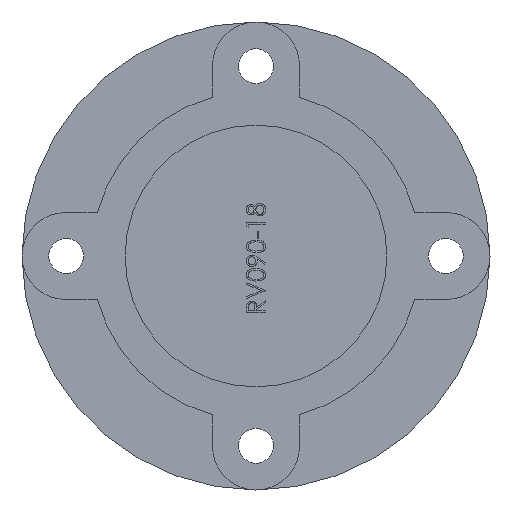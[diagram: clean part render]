
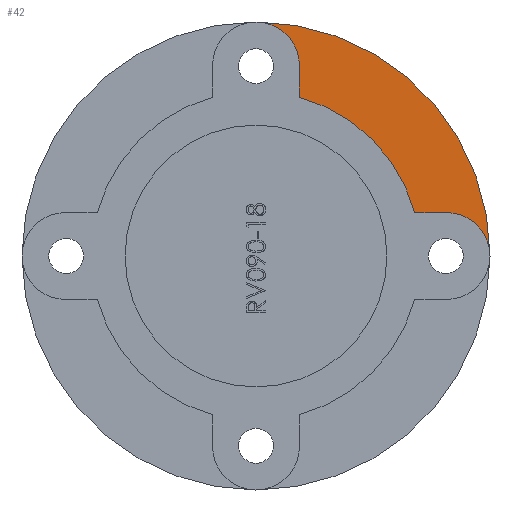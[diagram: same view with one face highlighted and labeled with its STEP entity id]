
A CAD part, left-side view. The second image highlights one B-rep face of the part: STEP entity #42.
In plain terms, the highlighted planar face has unit normal (-1, 0, 0).
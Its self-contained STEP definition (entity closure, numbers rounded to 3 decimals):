
#42 = ADVANCED_FACE ( 'NONE', ( #4893 ), #462, .F. ) ;
#459 = DIRECTION ( 'NONE',  ( 0., 0., -1. ) ) ;
#460 = DIRECTION ( 'NONE',  ( 1., 0., 0. ) ) ;
#461 = CARTESIAN_POINT ( 'NONE',  ( 18., 56.8, 0. ) ) ;
#462 = PLANE ( 'NONE',  #4895 ) ;
#811 = DIRECTION ( 'NONE',  ( 0., -1., 0. ) ) ;
#812 = DIRECTION ( 'NONE',  ( -1., 0., 0. ) ) ;
#813 = CARTESIAN_POINT ( 'NONE',  ( 18., 0., 65.75 ) ) ;
#814 = DIRECTION ( 'NONE',  ( 0., 0., 1. ) ) ;
#815 = DIRECTION ( 'NONE',  ( -1., 0., 0. ) ) ;
#816 = CARTESIAN_POINT ( 'NONE',  ( 18., 0., 0. ) ) ;
#817 = DIRECTION ( 'NONE',  ( 0., 0., -1. ) ) ;
#818 = DIRECTION ( 'NONE',  ( -1., 0., 0. ) ) ;
#819 = DIRECTION ( 'NONE',  ( 0., 1., 0. ) ) ;
#820 = CARTESIAN_POINT ( 'NONE',  ( 18., -65.75, 15. ) ) ;
#821 = LINE ( 'NONE', #820, #1320 ) ;
#822 = DIRECTION ( 'NONE',  ( 0., 0., 1. ) ) ;
#823 = CARTESIAN_POINT ( 'NONE',  ( 18., -15., 65.75 ) ) ;
#824 = LINE ( 'NONE', #823, #1318 ) ;
#825 = CARTESIAN_POINT ( 'NONE',  ( 18., -65.75, 0. ) ) ;
#838 = DIRECTION ( 'NONE',  ( 0., 0., 1. ) ) ;
#839 = DIRECTION ( 'NONE',  ( -1., 0., 0. ) ) ;
#846 = CARTESIAN_POINT ( 'NONE',  ( 18., 0., 0. ) ) ;
#1306 = AXIS2_PLACEMENT_3D ( 'NONE', #816, #815, #814 ) ;
#1311 = AXIS2_PLACEMENT_3D ( 'NONE', #846, #839, #838 ) ;
#1313 = AXIS2_PLACEMENT_3D ( 'NONE', #825, #818, #817 ) ;
#1318 = VECTOR ( 'NONE', #822, 1000. ) ;
#1320 = VECTOR ( 'NONE', #819, 1000. ) ;
#1322 = AXIS2_PLACEMENT_3D ( 'NONE', #813, #812, #811 ) ;
#1696 = VERTEX_POINT ( 'NONE', #4665 ) ;
#1768 = VERTEX_POINT ( 'NONE', #4592 ) ;
#1770 = VERTEX_POINT ( 'NONE', #4590 ) ;
#1775 = VERTEX_POINT ( 'NONE', #4585 ) ;
#1776 = VERTEX_POINT ( 'NONE', #4584 ) ;
#1777 = VERTEX_POINT ( 'NONE', #4583 ) ;
#2117 = EDGE_LOOP ( 'NONE', ( #2192, #2194, #2193, #2196, #2195, #2197 ) ) ;
#2192 = ORIENTED_EDGE ( 'NONE', *, *, #6564, .F. ) ;
#2193 = ORIENTED_EDGE ( 'NONE', *, *, #6565, .F. ) ;
#2194 = ORIENTED_EDGE ( 'NONE', *, *, #6559, .F. ) ;
#2195 = ORIENTED_EDGE ( 'NONE', *, *, #6567, .T. ) ;
#2196 = ORIENTED_EDGE ( 'NONE', *, *, #6566, .F. ) ;
#2197 = ORIENTED_EDGE ( 'NONE', *, *, #6568, .F. ) ;
#4583 = CARTESIAN_POINT ( 'NONE',  ( 18., -80.75, 0. ) ) ;
#4584 = CARTESIAN_POINT ( 'NONE',  ( 18., -65.75, 15. ) ) ;
#4585 = CARTESIAN_POINT ( 'NONE',  ( 18., -15., 65.75 ) ) ;
#4590 = CARTESIAN_POINT ( 'NONE',  ( 18., -54.784, 15. ) ) ;
#4592 = CARTESIAN_POINT ( 'NONE',  ( 18., -15., 54.784 ) ) ;
#4665 = CARTESIAN_POINT ( 'NONE',  ( 18., 0., 80.75 ) ) ;
#4893 = FACE_OUTER_BOUND ( 'NONE', #2117, .T. ) ;
#4895 = AXIS2_PLACEMENT_3D ( 'NONE', #461, #460, #459 ) ;
#6230 = CIRCLE ( 'NONE', #1322, 15. ) ;
#6231 = CIRCLE ( 'NONE', #1306, 80.75 ) ;
#6232 = CIRCLE ( 'NONE', #1313, 15. ) ;
#6235 = CIRCLE ( 'NONE', #1311, 56.8 ) ;
#6559 = EDGE_CURVE ( 'NONE', #1770, #1768, #6235, .T. ) ;
#6564 = EDGE_CURVE ( 'NONE', #1768, #1775, #824, .T. ) ;
#6565 = EDGE_CURVE ( 'NONE', #1776, #1770, #821, .T. ) ;
#6566 = EDGE_CURVE ( 'NONE', #1777, #1776, #6232, .T. ) ;
#6567 = EDGE_CURVE ( 'NONE', #1777, #1696, #6231, .T. ) ;
#6568 = EDGE_CURVE ( 'NONE', #1775, #1696, #6230, .T. ) ;
